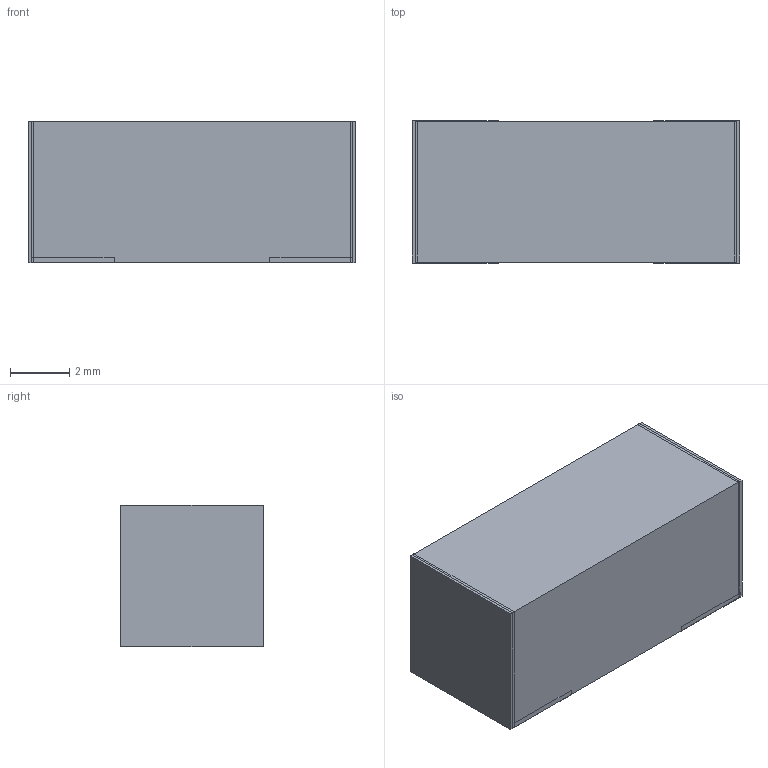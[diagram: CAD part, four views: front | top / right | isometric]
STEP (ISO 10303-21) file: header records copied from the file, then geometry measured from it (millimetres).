
FILE_DESCRIPTION(('Open CASCADE Model'),'2;1');
FILE_NAME('Open CASCADE Shape Model','2026-10-30T18:07:20',('Author'),( 'Open CASCADE'),'Open CASCADE STEP processor 7.9','Open CASCADE 7.9' ,'Unknown');
FILE_SCHEMA(('AUTOMOTIVE_DESIGN { 1 0 10303 214 1 1 1 1 }'));
Length unit declared in the file: millimetre
Products named in the file (4): Littelfuse_08853_15DR_visual; insulating_body; termination_L; termination_R
Assembly tree (3 placements, depth 2):
  Littelfuse_08853_15DR_visual
    insulating_body
    termination_L
    termination_R
Bounding box: 11.04 x 4.8 x 4.78 mm (x, y, z)
Surface area: 406 mm2
Topology: 3 solids, 3 shells, 34 faces, 72 edges, 44 vertices
Faces by surface type: plane 34
Entity records: 1898 total; most frequent: CARTESIAN_POINT 302, DIRECTION 288, LINE 212, VECTOR 212, ORIENTED_EDGE 144, PCURVE 144, DEFINITIONAL_REPRESENTATION 144, EDGE_CURVE 72
